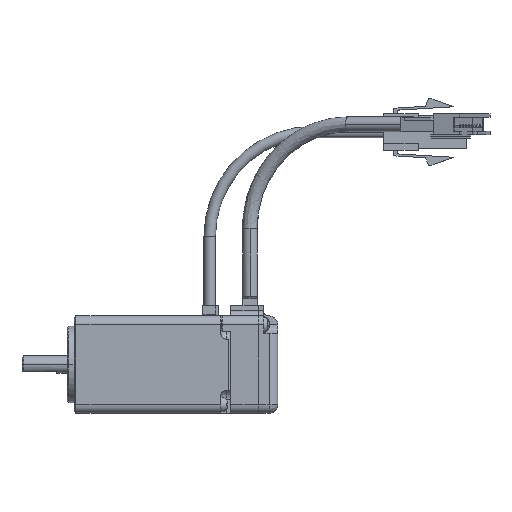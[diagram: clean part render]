
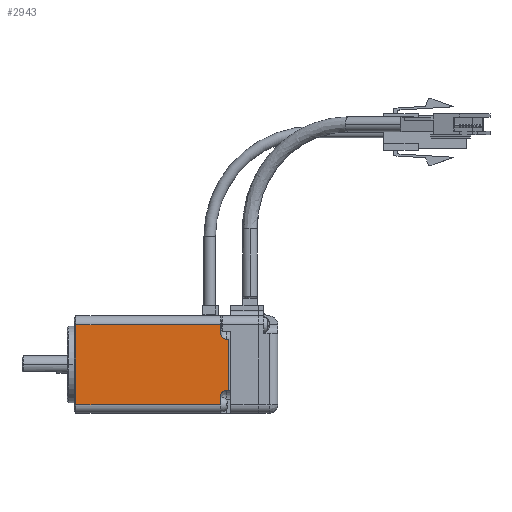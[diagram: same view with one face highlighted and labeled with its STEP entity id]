
A CAD part, top view. The second image highlights one B-rep face of the part: STEP entity #2943.
In plain terms, the highlighted planar face has unit normal (0, 0, 1) as drawn and (-1, 0, 0) by its records, which use the part's own axes.
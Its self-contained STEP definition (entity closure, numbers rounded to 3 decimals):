
#352 = CIRCLE ( 'NONE', #7359, 1.5 ) ;
#452 = CIRCLE ( 'NONE', #8926, 1.5 ) ;
#900 = CARTESIAN_POINT ( 'NONE',  ( -4.249, 32.849, 0.5 ) ) ;
#1338 = VECTOR ( 'NONE', #10563, 1000. ) ;
#1404 = VECTOR ( 'NONE', #2448, 1000. ) ;
#1511 = AXIS2_PLACEMENT_3D ( 'NONE', #9386, #10927, #1802 ) ;
#1600 = LINE ( 'NONE', #10207, #17346 ) ;
#1671 = ORIENTED_EDGE ( 'NONE', *, *, #13629, .T. ) ;
#1675 = ORIENTED_EDGE ( 'NONE', *, *, #17245, .T. ) ;
#1802 = DIRECTION ( 'NONE',  ( 0., 0., 1. ) ) ;
#2448 = DIRECTION ( 'NONE',  ( 0., -1., 0. ) ) ;
#2864 = CARTESIAN_POINT ( 'NONE',  ( -4.249, 32.849, 2.8 ) ) ;
#2943 = ADVANCED_FACE ( 'NONE', ( #19080 ), #3262, .T. ) ;
#3191 = VERTEX_POINT ( 'NONE', #18288 ) ;
#3239 = ORIENTED_EDGE ( 'NONE', *, *, #16510, .T. ) ;
#3262 = PLANE ( 'NONE',  #1511 ) ;
#4390 = DIRECTION ( 'NONE',  ( 0., -1., 0. ) ) ;
#4459 = CARTESIAN_POINT ( 'NONE',  ( -4.249, 28.749, 0. ) ) ;
#4777 = DIRECTION ( 'NONE',  ( 1., 0., 0. ) ) ;
#5174 = VECTOR ( 'NONE', #15762, 1000. ) ;
#5430 = LINE ( 'NONE', #4459, #1338 ) ;
#5582 = CARTESIAN_POINT ( 'NONE',  ( -4.249, 12.549, 1.3 ) ) ;
#6630 = CARTESIAN_POINT ( 'NONE',  ( -4.249, 32.849, 44.5 ) ) ;
#7101 = DIRECTION ( 'NONE',  ( 0., 0., -1. ) ) ;
#7150 = CARTESIAN_POINT ( 'NONE',  ( -4.249, 14.049, 0. ) ) ;
#7359 = AXIS2_PLACEMENT_3D ( 'NONE', #13906, #4777, #15438 ) ;
#7391 = CARTESIAN_POINT ( 'NONE',  ( -4.249, 28.749, 0.5 ) ) ;
#7587 = LINE ( 'NONE', #7150, #19291 ) ;
#7717 = VERTEX_POINT ( 'NONE', #7391 ) ;
#7801 = VECTOR ( 'NONE', #12791, 1000. ) ;
#8491 = VERTEX_POINT ( 'NONE', #13522 ) ;
#8885 = EDGE_LOOP ( 'NONE', ( #3239, #14119, #16405, #14985, #1675, #10035, #15701, #11818, #19632, #1671 ) ) ;
#8926 = AXIS2_PLACEMENT_3D ( 'NONE', #5582, #16237, #7101 ) ;
#9192 = LINE ( 'NONE', #6630, #5174 ) ;
#9386 = CARTESIAN_POINT ( 'NONE',  ( -4.249, 32.849, 0.5 ) ) ;
#9418 = VERTEX_POINT ( 'NONE', #15302 ) ;
#10035 = ORIENTED_EDGE ( 'NONE', *, *, #10472, .F. ) ;
#10190 = VERTEX_POINT ( 'NONE', #11270 ) ;
#10207 = CARTESIAN_POINT ( 'NONE',  ( -4.249, 32.849, 2.8 ) ) ;
#10472 = EDGE_CURVE ( 'NONE', #7717, #19470, #5430, .T. ) ;
#10556 = CARTESIAN_POINT ( 'NONE',  ( -4.249, 32.849, 2.8 ) ) ;
#10563 = DIRECTION ( 'NONE',  ( 0., 0., 1. ) ) ;
#10927 = DIRECTION ( 'NONE',  ( -1., 0., 0. ) ) ;
#11176 = VERTEX_POINT ( 'NONE', #10556 ) ;
#11239 = CARTESIAN_POINT ( 'NONE',  ( -4.249, 32.849, 0.5 ) ) ;
#11270 = CARTESIAN_POINT ( 'NONE',  ( -4.249, 9.849, 44.5 ) ) ;
#11549 = VECTOR ( 'NONE', #4390, 1000. ) ;
#11818 = ORIENTED_EDGE ( 'NONE', *, *, #14638, .F. ) ;
#12049 = LINE ( 'NONE', #15077, #19690 ) ;
#12644 = LINE ( 'NONE', #900, #1404 ) ;
#12791 = DIRECTION ( 'NONE',  ( 0., 0., -1. ) ) ;
#13522 = CARTESIAN_POINT ( 'NONE',  ( -4.249, 14.049, 0.5 ) ) ;
#13629 = EDGE_CURVE ( 'NONE', #18161, #9418, #16083, .T. ) ;
#13906 = CARTESIAN_POINT ( 'NONE',  ( -4.249, 30.249, 1.3 ) ) ;
#14109 = EDGE_CURVE ( 'NONE', #7717, #8491, #12644, .T. ) ;
#14119 = ORIENTED_EDGE ( 'NONE', *, *, #16193, .T. ) ;
#14146 = EDGE_CURVE ( 'NONE', #3191, #18161, #452, .T. ) ;
#14638 = EDGE_CURVE ( 'NONE', #3191, #8491, #7587, .T. ) ;
#14985 = ORIENTED_EDGE ( 'NONE', *, *, #15710, .T. ) ;
#15077 = CARTESIAN_POINT ( 'NONE',  ( -4.249, 9.849, 0.5 ) ) ;
#15146 = DIRECTION ( 'NONE',  ( 0., 0., 1. ) ) ;
#15255 = CARTESIAN_POINT ( 'NONE',  ( -4.249, 28.749, 1.3 ) ) ;
#15302 = CARTESIAN_POINT ( 'NONE',  ( -4.249, 9.849, 2.8 ) ) ;
#15438 = DIRECTION ( 'NONE',  ( 0., 0., 1. ) ) ;
#15701 = ORIENTED_EDGE ( 'NONE', *, *, #14109, .T. ) ;
#15710 = EDGE_CURVE ( 'NONE', #11176, #15784, #1600, .T. ) ;
#15762 = DIRECTION ( 'NONE',  ( 0., 1., 0. ) ) ;
#15784 = VERTEX_POINT ( 'NONE', #18075 ) ;
#15932 = LINE ( 'NONE', #11239, #7801 ) ;
#16083 = LINE ( 'NONE', #2864, #11549 ) ;
#16193 = EDGE_CURVE ( 'NONE', #10190, #17069, #9192, .T. ) ;
#16237 = DIRECTION ( 'NONE',  ( 1., 0., 0. ) ) ;
#16376 = CARTESIAN_POINT ( 'NONE',  ( -4.249, 32.849, 44.5 ) ) ;
#16405 = ORIENTED_EDGE ( 'NONE', *, *, #17767, .T. ) ;
#16510 = EDGE_CURVE ( 'NONE', #9418, #10190, #12049, .T. ) ;
#16682 = CARTESIAN_POINT ( 'NONE',  ( -4.249, 12.549, 2.8 ) ) ;
#17069 = VERTEX_POINT ( 'NONE', #16376 ) ;
#17245 = EDGE_CURVE ( 'NONE', #15784, #19470, #352, .T. ) ;
#17346 = VECTOR ( 'NONE', #19351, 1000. ) ;
#17767 = EDGE_CURVE ( 'NONE', #17069, #11176, #15932, .T. ) ;
#17810 = DIRECTION ( 'NONE',  ( 0., 0., -1. ) ) ;
#18075 = CARTESIAN_POINT ( 'NONE',  ( -4.249, 30.249, 2.8 ) ) ;
#18161 = VERTEX_POINT ( 'NONE', #16682 ) ;
#18288 = CARTESIAN_POINT ( 'NONE',  ( -4.249, 14.049, 1.3 ) ) ;
#19080 = FACE_OUTER_BOUND ( 'NONE', #8885, .T. ) ;
#19291 = VECTOR ( 'NONE', #17810, 1000. ) ;
#19351 = DIRECTION ( 'NONE',  ( 0., -1., 0. ) ) ;
#19470 = VERTEX_POINT ( 'NONE', #15255 ) ;
#19632 = ORIENTED_EDGE ( 'NONE', *, *, #14146, .T. ) ;
#19690 = VECTOR ( 'NONE', #15146, 1000. ) ;
